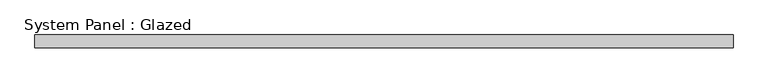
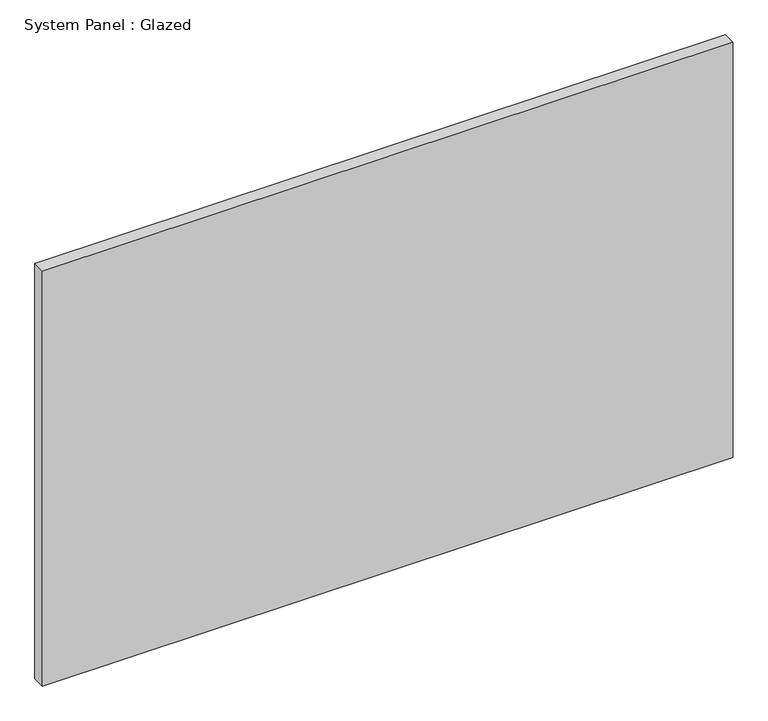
"""IFC4 building model written with IfcOpenShell, lengths in millimetres: plate geometry, System Panel : Glazed."""

from ifc_helpers import new_model, si_unit, origin, origin_with_axes, place, context, project, spatial, polyline, outline, extrude, source, transform, mapped, element, save


def system_panel_glazed_225245cb(model_context):
    return source(origin(), model_context, "Body", "SweptSolid", [
        extrude(outline(polyline([(685.4060559, 19.05), (-685.4060559, 19.05), (-685.4060559, 44.45), (685.4060559, 44.45), (685.4060559, 19.05)])), origin_with_axes(), (0.0, 0.0, 1.0), 871.864222),
    ])


if __name__ == "__main__":
    model = new_model("IFC4")
    model_context = context("Model", 3, world=origin())
    ifc_project = project(units=[si_unit("LENGTHUNIT", "METRE", prefix="MILLI")], contexts=[model_context])
    site = spatial("IfcSite", under=ifc_project)
    building = spatial("IfcBuilding", under=site)
    placement = place(None, origin())
    system_panel_glazed_shape = system_panel_glazed_225245cb(model_context)
    element("IfcPlate", 1, ObjectType="System Panel : Glazed", at=placement, inside=building, context=model_context, shape_type="MappedRepresentation", body=[
        mapped(system_panel_glazed_shape, transform((0.0, 0.0, 0.0), x_axis=(1.0, 0.0, 0.0), y_axis=(0.0, 1.0, 0.0), z_axis=(0.0, 0.0, 1.0))),
    ])
    save(model, "model.ifc")
